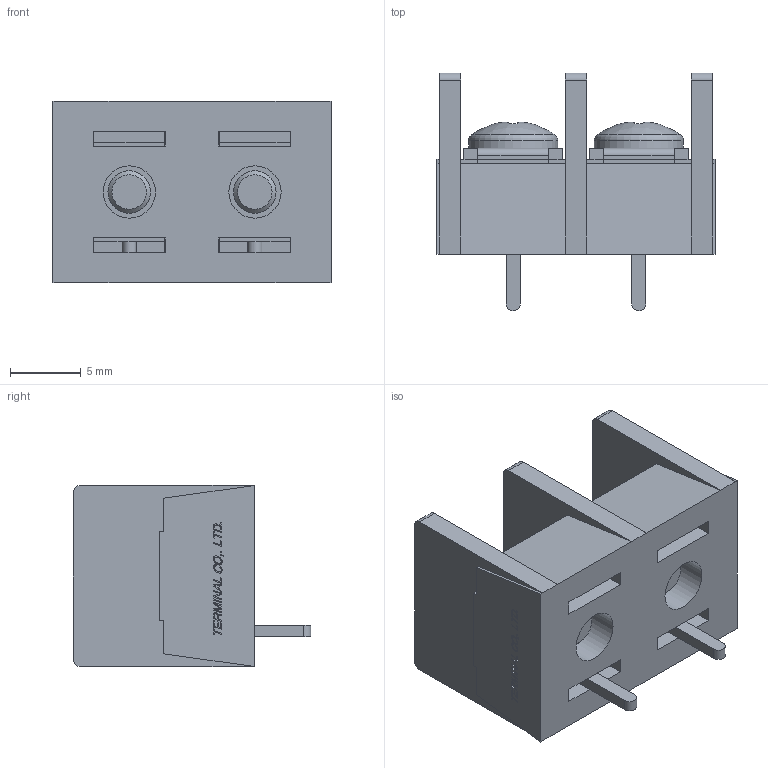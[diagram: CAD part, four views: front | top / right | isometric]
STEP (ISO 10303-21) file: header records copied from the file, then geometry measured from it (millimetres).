
FILE_DESCRIPTION(/* description */ ('Alibre Inc.'),/* implementation_level */ '2;1');
FILE_NAME(/* name */ 'export0',/* time_stamp */ '2015-10-20T08:10:28+09:00',/* author */ (''),/* organization */ (''),/* preprocessor_version */ 'ST-DEVELOPER v14',/* originating_system */ 'Alibre',/* authorisation */ '');
FILE_SCHEMA (('CONFIG_CONTROL_DESIGN'));
Length unit declared in the file: centimetre
Products named in the file (1): ID_1
Bounding box: 19.69 x 16.8 x 12.8 mm (x, y, z)
Volume: 1905.5 mm3; surface area: 2444 mm2
Topology: 1 solids, 35 shells, 952 faces, 2474 edges, 1640 vertices
Faces by surface type: plane 706, bspline 208, cylinder 22, cone 10, torus 4, sphere 2
Full cylindrical faces by diameter (mm): 3 x4, 3.7 x2, 4.6 x2, 6.3 x2
Entity records: 27847 total; most frequent: CARTESIAN_POINT 6881, ORIENTED_EDGE 4904, DIRECTION 2802, EDGE_CURVE 2452, VECTOR 1910, LINE 1910, VERTEX_POINT 1634, EDGE_LOOP 1044
